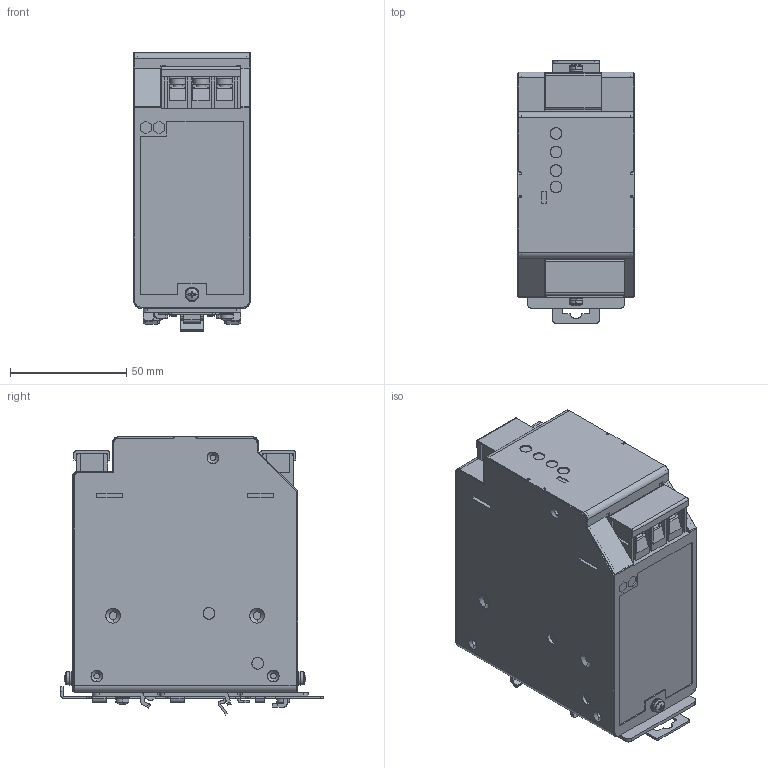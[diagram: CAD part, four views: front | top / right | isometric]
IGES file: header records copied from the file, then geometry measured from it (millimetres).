
Start section: SolidWorks IGES file using analytic representation for surfaces
Global section: file name: C:\DLP75-24-1_OUTLINE.IGS; native system: SolidWorks 2006 by SolidWorks Corporation; preprocessor: SolidWorks 2006 by SolidWorks Corporation; author: 3444matsunaga; date: 060920.162120; units: millimetre
Bounding box: 50 x 113 x 119.78 mm (x, y, z)
Surface area: 65065.9 mm2 (no closed solid volume)
Topology: 0 solids, 0 shells, 1270 faces, 12884 edges, 12818 vertices
Faces by surface type: bspline 858, revolution 412
